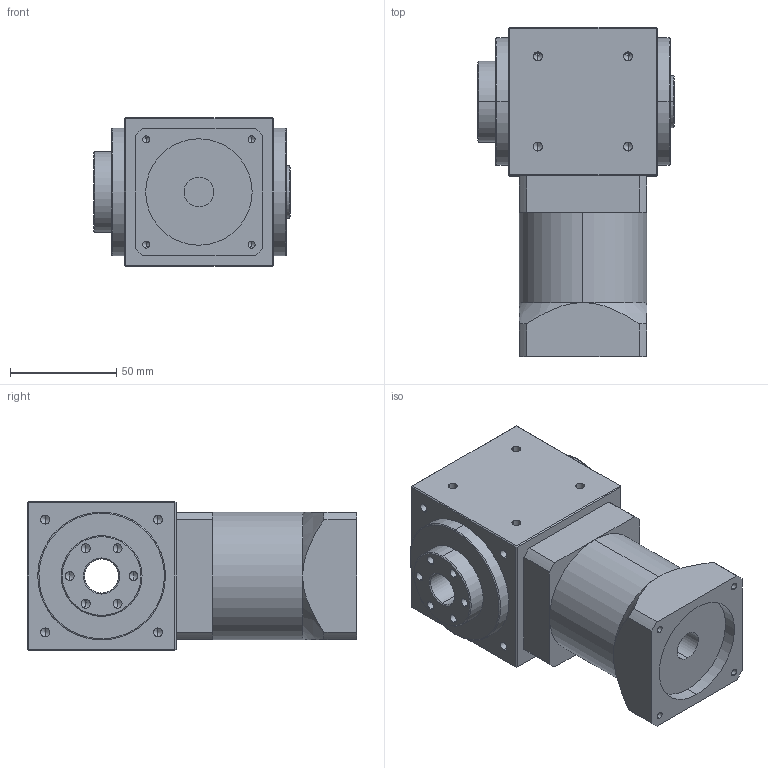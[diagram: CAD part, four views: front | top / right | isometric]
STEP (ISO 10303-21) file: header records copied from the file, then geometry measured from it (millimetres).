
FILE_DESCRIPTION (( 'STEP AP214' ), '1' );
FILE_NAME ('RXW070AS-L1-RF-400W.STEP', '2020-11-21T08:53:08', ( '微软用户' ), ( '微软中国' ), 'SwSTEP 2.0', 'SolidWorks 2014', '' );
FILE_SCHEMA (( 'AUTOMOTIVE_DESIGN' ));
Length unit declared in the file: millimetre
Products named in the file (2): RXW070AS-L1-RF-400W
Bounding box: 92.5 x 155 x 70 mm (x, y, z)
Volume: 617337.7 mm3; surface area: 62292.1 mm2
Topology: 1 solids, 1 shells, 205 faces, 498 edges, 264 vertices
Faces by surface type: cylinder 84, cone 72, plane 45, bspline 4
Entity records: 7918 total; most frequent: CARTESIAN_POINT 1189, DIRECTION 1002, ORIENTED_EDGE 876, EDGE_CURVE 438, AXIS2_PLACEMENT_3D 389, VERTEX_POINT 264, EDGE_LOOP 244, VECTOR 224
